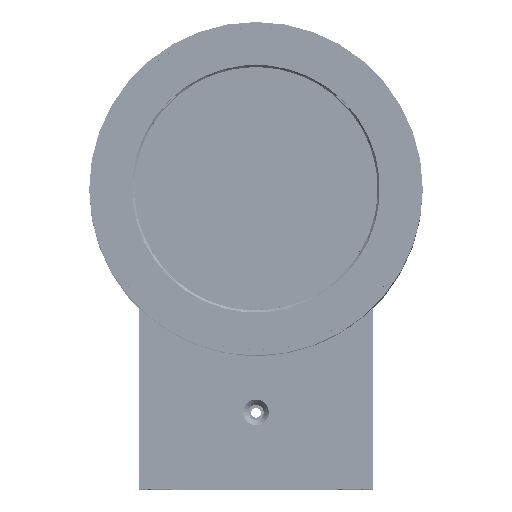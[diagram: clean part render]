
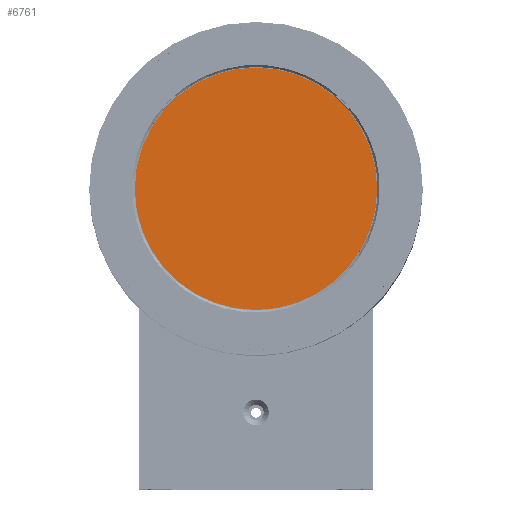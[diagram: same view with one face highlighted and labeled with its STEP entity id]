
A CAD part, top view. The second image highlights one B-rep face of the part: STEP entity #6761.
In plain terms, the highlighted planar face has unit normal (0, 0, 1) as drawn and (0, 1, 0) by its records, which use the part's own axes.
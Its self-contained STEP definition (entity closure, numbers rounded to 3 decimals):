
#6310=CARTESIAN_POINT('',(0.,9.,0.));
#6311=DIRECTION('',(0.,-1.,0.));
#6312=DIRECTION('',(-1.,0.,0.));
#6313=AXIS2_PLACEMENT_3D('',#6310,#6311,#6312);
#6315=CARTESIAN_POINT('',(0.,9.,0.));
#6316=DIRECTION('',(0.,-1.,0.));
#6317=DIRECTION('',(1.,0.,0.));
#6318=AXIS2_PLACEMENT_3D('',#6315,#6316,#6317);
#6600=CARTESIAN_POINT('',(47.25,9.,0.));
#6601=VERTEX_POINT('',#6600);
#6602=CARTESIAN_POINT('',(-47.25,9.,0.));
#6603=VERTEX_POINT('',#6602);
#6752=CARTESIAN_POINT('',(0.,9.,0.));
#6753=DIRECTION('',(0.,-1.,0.));
#6754=DIRECTION('',(-1.,0.,0.));
#6755=AXIS2_PLACEMENT_3D('',#6752,#6753,#6754);
#6756=PLANE('',#6755);
#6757=ORIENTED_EDGE('',*,*,#6731,.T.);
#6758=ORIENTED_EDGE('',*,*,#6747,.T.);
#6759=EDGE_LOOP('',(#6757,#6758));
#6760=FACE_OUTER_BOUND('',#6759,.F.);
#6761=ADVANCED_FACE('',(#6760),#6756,.F.);
#6314=CIRCLE('',#6313,47.25);
#6319=CIRCLE('',#6318,47.25);
#6731=EDGE_CURVE('',#6603,#6601,#6314,.T.);
#6747=EDGE_CURVE('',#6601,#6603,#6319,.T.);
